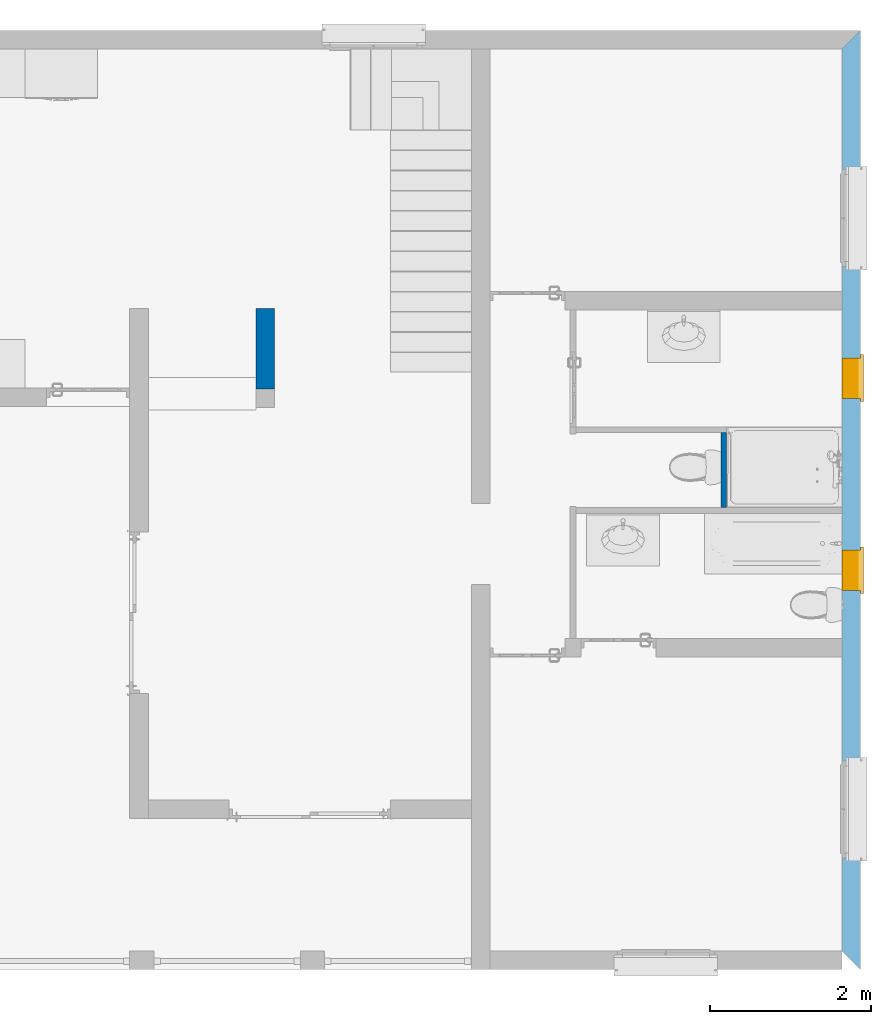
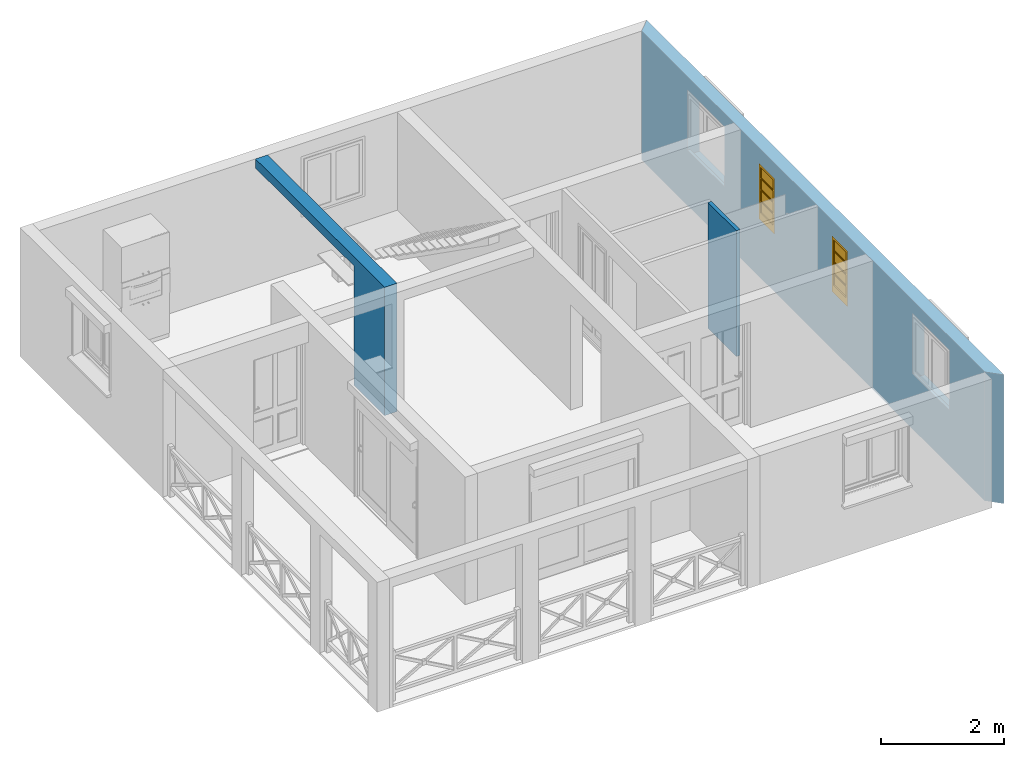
# One storey, part 11 of 17: 2 walls, 2 windows, 5 openings, plus 1 element that does not belong to this part.
"""IFC2X3 building model written with IfcOpenShell, lengths in metres."""

from ifc_helpers import new_model, entity, si_unit, converted_unit, derived_unit, money_unit, direction, frame, origin_with_axes, origin_2d_with_axis, place, context, subcontext, project, spatial, polyline, rectangle, outline, extrude, boolean, clip, bounded_halfspace, faceted_brep, material, layer, layer_set, layer_usage, type_object, element, fill, save


model = new_model("IFC2X3")

# Units and contexts
model_context = context("Model", 3, precision=1e-05, world=origin_with_axes(), true_north=direction((0.0, 1.0)))
body_context = subcontext(model_context, "Body", "Model", "MODEL_VIEW")
ifc_project = project(units=[si_unit("LENGTHUNIT", "METRE"), si_unit("AREAUNIT", "SQUARE_METRE"), si_unit("VOLUMEUNIT", "CUBIC_METRE"), converted_unit("PLANEANGLEUNIT", "DEGREE", entity("IfcPlaneAngleMeasure", 0.0174532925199), si_unit("PLANEANGLEUNIT", "RADIAN"), dimensions=[0, 0, 0, 0, 0, 0, 0]), si_unit("SOLIDANGLEUNIT", "STERADIAN"), money_unit("CHF"), converted_unit("TIMEUNIT", "Year", entity("IfcTimeMeasure", 31556926.0), si_unit("TIMEUNIT", "SECOND"), dimensions=[0, 0, 1, 0, 0, 0, 0]), si_unit("MASSUNIT", "GRAM", prefix="KILO"), si_unit("THERMODYNAMICTEMPERATUREUNIT", "DEGREE_CELSIUS"), si_unit("LUMINOUSINTENSITYUNIT", "LUMEN"), si_unit("ENERGYUNIT", "JOULE", prefix="MEGA"), derived_unit("THERMALCONDUCTANCEUNIT", [(si_unit("POWERUNIT", "WATT"), 1), (si_unit("LENGTHUNIT", "METRE"), -1), (si_unit("THERMODYNAMICTEMPERATUREUNIT", "KELVIN"), -1)]), derived_unit("SPECIFICHEATCAPACITYUNIT", [(si_unit("ENERGYUNIT", "JOULE"), 1), (si_unit("MASSUNIT", "GRAM", prefix="KILO"), -1), (si_unit("THERMODYNAMICTEMPERATUREUNIT", "KELVIN"), -1)]), derived_unit("MASSDENSITYUNIT", [(si_unit("MASSUNIT", "GRAM", prefix="KILO"), 1), (si_unit("VOLUMEUNIT", "CUBIC_METRE"), -1)])], contexts=[model_context])

# Site, building, storey
site_placement = place(None, origin_with_axes())
site = spatial("IfcSite", under=ifc_project, at=site_placement, Name="Site", CompositionType="ELEMENT")
building_placement = place(site_placement, origin_with_axes())
building = spatial("IfcBuilding", under=site, at=building_placement, Name="Bâtiment", CompositionType="ELEMENT")
storey_placement = place(building_placement, frame((0.0, 0.0, 3.0), z_axis=(0.0, 0.0, 1.0), x_axis=(1.0, 0.0, 0.0)))
storey = spatial("IfcBuildingStorey", under=building, at=storey_placement, Name="RDJ", CompositionType="ELEMENT", Elevation=3.0)

# Wall, openings, windows
ifc_material = material(Name="Hachure solide 2628782308")
ifc_layer = layer(ifc_material, 0.23, ventilated="UNKNOWN")
ifc_layer_set = layer_set([ifc_layer], Name="Hachure solide 2628782308 0.23")
ifc_layer_usage = layer_usage(ifc_layer_set, "AXIS2", "POSITIVE", -0.23)
wall_type_1 = type_object("IfcWallType", Name="Hachure solide 2628782308 230", PredefinedType="NOTDEFINED")
wall_1_placement = place(storey_placement, frame((96.5635190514, 18.8103410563, -3.05), z_axis=(0.0, 0.0, 1.0), x_axis=(0.0, -1.0, 0.0)))
wall_1 = element("IfcWallStandardCase", 1, at=wall_1_placement, inside=storey, type_object=wall_type_1, material=ifc_layer_usage, Name="MurExt-008", context=body_context, shape_type="Clipping", body=[
    clip(extrude(outline(polyline([(0.23, -0.23), (11.4, -0.23), (11.63, 0.0), (0.0, 0.0), (0.23, -0.23)])), origin_with_axes(), (0.0, 0.0, 1.0), 2.56), bounded_halfspace(frame((0.0, 1.25521538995, 2.17409682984), z_axis=(0.0, -0.5, -0.866025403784), x_axis=(0.0, 0.866025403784, -0.5)), True, origin_with_axes(), polyline([(-0.280010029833, -0.24), (11.910010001, -0.24), (11.910010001, 0.01), (-0.280010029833, 0.01), (-0.280010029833, -0.24)]))),
])
opening_1_placement = place(wall_1_placement, frame((6.68515208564, 0.0, 1.25), z_axis=(0.0, 0.0, 1.0), x_axis=(1.0, 0.0, 0.0)))
opening_1 = element("IfcOpeningElement", 2, at=opening_1_placement, cuts=wall_1, Name="Fen-033", context=body_context, shape_type="SweptSolid", body=[
    extrude(outline(polyline([(0.25, 0.1), (-0.25, 0.1), (-0.25, -1.0), (0.25, -1.0), (0.25, 0.1)])), frame((0.0, -0.23, 0.0), z_axis=(0.0, -1.0, 0.0), x_axis=(-1.0, 0.0, 0.0)), (0.0, 0.0, -1.0), 0.46),
])
opening_2_placement = place(wall_1_placement, frame((4.30484791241, 0.0, 1.25), z_axis=(0.0, 0.0, 1.0), x_axis=(1.0, 0.0, 0.0)))
opening_2 = element("IfcOpeningElement", 3, at=opening_2_placement, cuts=wall_1, Name="Fen-032", context=body_context, shape_type="SweptSolid", body=[
    extrude(outline(polyline([(0.25, 0.1), (-0.25, 0.1), (-0.25, -1.0), (0.25, -1.0), (0.25, 0.1)])), frame((0.0, -0.23, 0.0), z_axis=(0.0, 1.0, 0.0), x_axis=(1.0, 0.0, 0.0)), (0.0, 0.0, 1.0), 0.46),
])
opening_3_placement = place(wall_1_placement, frame((9.6472909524, 0.0, 1.1), z_axis=(0.0, 0.0, 1.0), x_axis=(1.0, 0.0, 0.0)))
element("IfcOpeningElement", 4, at=opening_3_placement, cuts=wall_1, Name="Fen-012", context=body_context, shape_type="SweptSolid", body=[
    extrude(outline(polyline([(0.6, 0.0), (-0.6, 0.0), (-0.6, -0.9), (0.0, 0.0), (0.6, -0.9), (0.6, 0.0)])), frame((0.0, -0.23, 0.0), z_axis=(0.0, -1.0, 0.0), x_axis=(-1.0, 0.0, 0.0)), (0.0, 0.0, -1.0), 0.46),
    extrude(outline(polyline([(-0.6, -1.2), (0.6, -1.2), (0.6, 0.0), (-0.6, 0.0), (-0.6, -1.2)])), frame((0.0, -0.23, 0.0), z_axis=(0.0, -1.0, 0.0), x_axis=(-1.0, 0.0, 0.0)), (0.0, 0.0, -1.0), 0.46),
    extrude(outline(polyline([(0.6, -0.1), (0.6, 0.001), (-0.6, 0.001), (-0.6, -0.1), (0.6, -0.1)])), frame((0.0, -0.18, 0.0), z_axis=(0.0, 1.0, 0.0), x_axis=(-1.0, 0.0, 0.0)), (0.0, 0.0, 1.0), 0.23),
])
opening_4_placement = place(wall_1_placement, frame((2.32356079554, 0.0, 1.1), z_axis=(0.0, 0.0, 1.0), x_axis=(1.0, 0.0, 0.0)))
element("IfcOpeningElement", 5, at=opening_4_placement, cuts=wall_1, Name="Fen-012", context=body_context, shape_type="SweptSolid", body=[
    extrude(outline(polyline([(0.6, 0.0), (-0.6, 0.0), (-0.6, -0.9), (0.0, 0.0), (0.6, -0.9), (0.6, 0.0)])), frame((0.0, -0.23, 0.0), z_axis=(0.0, -1.0, 0.0), x_axis=(-1.0, 0.0, 0.0)), (0.0, 0.0, -1.0), 0.46),
    extrude(outline(polyline([(-0.6, -1.2), (0.6, -1.2), (0.6, 0.0), (-0.6, 0.0), (-0.6, -1.2)])), frame((0.0, -0.23, 0.0), z_axis=(0.0, -1.0, 0.0), x_axis=(-1.0, 0.0, 0.0)), (0.0, 0.0, -1.0), 0.46),
    extrude(outline(polyline([(0.6, -0.1), (0.6, 0.001), (-0.6, 0.001), (-0.6, -0.1), (0.6, -0.1)])), frame((0.0, -0.18, 0.0), z_axis=(0.0, 1.0, 0.0), x_axis=(-1.0, 0.0, 0.0)), (0.0, 0.0, 1.0), 0.23),
])
window_style = type_object("IfcWindowStyle", Name="Baie_fixe", ConstructionType="NOTDEFINED", OperationType="NOTDEFINED", ParameterTakesPrecedence=False, Sizeable=False)
window_1_placement = place(opening_1_placement, frame((-0.25, 0.0, 0.0), z_axis=(0.0, 0.0, 1.0), x_axis=(1.0, 0.0, 0.0)))
window_1 = element("IfcWindow", 6, at=window_1_placement, inside=storey, type_object=window_style, Name="Fen-033", OverallHeight=1.0, OverallWidth=0.5, context=body_context, shape_type="Brep", body=[
    faceted_brep([(0.5, -0.23, -0.1), (0.45, -0.23, -0.1), (0.45, -0.17, -0.1), (0.5, -0.17, -0.1), (0.5, -0.23, 1.0), (0.0, -0.23, 1.0), (0.0, -0.23, -0.1), (0.05, -0.23, -0.1), (0.05, -0.23, 0.05), (0.05, -0.23, 0.95), (0.45, -0.23, 0.95), (0.45, -0.23, 0.05), (0.45, -0.17, 0.05), (0.45, -0.17, 0.95), (0.05, -0.17, 0.95), (0.05, -0.17, 0.05), (0.05, -0.17, -0.1), (0.0, -0.17, -0.1), (0.0, -0.17, 1.0), (0.5, -0.17, 1.0)], [[[0, 1, 2, 3]], [[0, 4, 5, 6, 7, 8, 9, 10, 11, 1]], [[1, 11, 12, 2]], [[3, 2, 12, 13, 14, 15, 16, 17, 18, 19]], [[4, 0, 3, 19]], [[5, 4, 19, 18]], [[6, 5, 18, 17]], [[7, 6, 17, 16]], [[8, 7, 16, 15]], [[9, 8, 15, 14]], [[10, 9, 14, 13]], [[11, 10, 13, 12]]]),
    faceted_brep([(0.05, -0.23, -0.1), (0.05, -0.23, 0.05), (0.05, -0.17, 0.05), (0.05, -0.17, -0.1), (0.45, -0.23, -0.1), (0.45, -0.23, 0.05), (0.45, -0.17, 0.05), (0.45, -0.17, -0.1)], [[[0, 1, 2, 3]], [[0, 4, 5, 1]], [[1, 5, 6, 2]], [[3, 2, 6, 7]], [[4, 0, 3, 7]], [[5, 4, 7, 6]]]),
    faceted_brep([(0.05, -0.2125, 0.05), (0.05, -0.2125, 0.9499), (0.05, -0.2075, 0.9499), (0.05, -0.2075, 0.05), (0.45, -0.2125, 0.05), (0.45, -0.2125, 0.9499), (0.45, -0.2075, 0.9499), (0.45, -0.2075, 0.05)], [[[0, 1, 2, 3]], [[0, 4, 5, 1]], [[1, 5, 6, 2]], [[3, 2, 6, 7]], [[4, 0, 3, 7]], [[5, 4, 7, 6]]]),
    faceted_brep([(0.05, -0.2125, 0.74), (0.05, -0.2125, 0.72), (0.05, -0.2275, 0.72), (0.05, -0.2275, 0.74), (0.45, -0.2125, 0.74), (0.45, -0.2125, 0.72), (0.45, -0.2275, 0.72), (0.45, -0.2275, 0.74)], [[[0, 1, 2, 3]], [[4, 5, 1, 0]], [[2, 1, 5, 6]], [[3, 2, 6, 7]], [[7, 4, 0, 3]], [[7, 6, 5, 4]]]),
    faceted_brep([(0.05, -0.2275, 0.49), (0.05, -0.2275, 0.51), (0.05, -0.2125, 0.51), (0.05, -0.2125, 0.49), (0.45, -0.2275, 0.49), (0.45, -0.2275, 0.51), (0.45, -0.2125, 0.51), (0.45, -0.2125, 0.49)], [[[0, 1, 2, 3]], [[4, 5, 1, 0]], [[2, 1, 5, 6]], [[3, 2, 6, 7]], [[7, 4, 0, 3]], [[7, 6, 5, 4]]]),
    faceted_brep([(0.05, -0.2125, 0.28), (0.05, -0.2125, 0.26), (0.05, -0.2275, 0.26), (0.05, -0.2275, 0.28), (0.45, -0.2125, 0.28), (0.45, -0.2125, 0.26), (0.45, -0.2275, 0.26), (0.45, -0.2275, 0.28)], [[[0, 1, 2, 3]], [[4, 5, 1, 0]], [[2, 1, 5, 6]], [[3, 2, 6, 7]], [[7, 4, 0, 3]], [[7, 6, 5, 4]]]),
    faceted_brep([(0.05, -0.1925, 0.74), (0.05, -0.1925, 0.72), (0.05, -0.2075, 0.72), (0.05, -0.2075, 0.74), (0.45, -0.1925, 0.74), (0.45, -0.1925, 0.72), (0.45, -0.2075, 0.72), (0.45, -0.2075, 0.74)], [[[0, 1, 2, 3]], [[4, 5, 1, 0]], [[2, 1, 5, 6]], [[3, 2, 6, 7]], [[7, 4, 0, 3]], [[7, 6, 5, 4]]]),
    faceted_brep([(0.05, -0.2075, 0.49), (0.05, -0.2075, 0.51), (0.05, -0.1925, 0.51), (0.05, -0.1925, 0.49), (0.45, -0.2075, 0.49), (0.45, -0.2075, 0.51), (0.45, -0.1925, 0.51), (0.45, -0.1925, 0.49)], [[[0, 1, 2, 3]], [[4, 5, 1, 0]], [[2, 1, 5, 6]], [[3, 2, 6, 7]], [[7, 4, 0, 3]], [[7, 6, 5, 4]]]),
    faceted_brep([(0.05, -0.1925, 0.28), (0.05, -0.1925, 0.26), (0.05, -0.2075, 0.26), (0.05, -0.2075, 0.28), (0.45, -0.1925, 0.28), (0.45, -0.1925, 0.26), (0.45, -0.2075, 0.26), (0.45, -0.2075, 0.28)], [[[0, 1, 2, 3]], [[4, 5, 1, 0]], [[2, 1, 5, 6]], [[3, 2, 6, 7]], [[7, 4, 0, 3]], [[7, 6, 5, 4]]]),
    faceted_brep([(0.0, -0.23, -0.1), (0.0, -0.23, 0.0), (0.0, -0.17, 0.0), (0.0, -0.17, -0.1), (0.5, -0.23, -0.1), (0.5, -0.23, 0.0), (0.5, -0.17, 0.0), (0.5, -0.17, -0.1)], [[[0, 1, 2, 3]], [[0, 4, 5, 1]], [[1, 5, 6, 2]], [[3, 2, 6, 7]], [[4, 0, 3, 7]], [[5, 4, 7, 6]]]),
    faceted_brep([(-0.04, 0.04, -0.1), (-0.04, 0.0, -0.1), (-0.04, 0.0, -0.052380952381), (-0.04, 0.04, -0.06), (0.54, 0.04, -0.1), (0.54, 0.0, -0.1), (0.5, 0.0, -0.1), (0.5, -0.17, -0.1), (0.0, -0.17, -0.1), (0.0, 0.0, -0.1), (0.0, 0.0, -0.052380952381), (0.0, -0.17, -0.02), (0.5, -0.17, -0.02), (0.5, 0.0, -0.052380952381), (0.54, 0.0, -0.052380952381), (0.54, 0.04, -0.06)], [[[0, 1, 2, 3]], [[0, 4, 5, 6, 7, 8, 9, 1]], [[1, 9, 10, 2]], [[3, 2, 10, 11, 12, 13, 14, 15]], [[4, 0, 3, 15]], [[5, 4, 15, 14]], [[6, 5, 14, 13]], [[7, 6, 13, 12]], [[8, 7, 12, 11]], [[9, 8, 11, 10]]]),
])
fill(opening_1, window_1)
window_2_placement = place(opening_2_placement, frame((-0.25, 0.0, 0.0), z_axis=(0.0, 0.0, 1.0), x_axis=(1.0, 0.0, 0.0)))
window_2 = element("IfcWindow", 7, at=window_2_placement, inside=storey, type_object=window_style, Name="Fen-032", OverallHeight=1.0, OverallWidth=0.5, context=body_context, shape_type="Brep", body=[
    faceted_brep([(0.0, -0.23, -0.1), (0.0, -0.17, -0.1), (0.05, -0.17, -0.1), (0.05, -0.23, -0.1), (0.0, -0.23, 1.0), (0.0, -0.17, 1.0), (0.5, -0.17, 1.0), (0.5, -0.17, -0.1), (0.45, -0.17, -0.1), (0.45, -0.17, 0.05), (0.45, -0.17, 0.95), (0.05, -0.17, 0.95), (0.05, -0.17, 0.05), (0.05, -0.23, 0.05), (0.05, -0.23, 0.95), (0.45, -0.23, 0.95), (0.45, -0.23, 0.05), (0.45, -0.23, -0.1), (0.5, -0.23, -0.1), (0.5, -0.23, 1.0)], [[[0, 1, 2, 3]], [[4, 5, 1, 0]], [[1, 5, 6, 7, 8, 9, 10, 11, 12, 2]], [[3, 2, 12, 13]], [[0, 3, 13, 14, 15, 16, 17, 18, 19, 4]], [[19, 6, 5, 4]], [[18, 7, 6, 19]], [[17, 8, 7, 18]], [[16, 9, 8, 17]], [[15, 10, 9, 16]], [[14, 11, 10, 15]], [[13, 12, 11, 14]]]),
    faceted_brep([(0.45, -0.23, -0.1), (0.45, -0.17, -0.1), (0.45, -0.17, 0.05), (0.45, -0.23, 0.05), (0.05, -0.23, -0.1), (0.05, -0.17, -0.1), (0.05, -0.17, 0.05), (0.05, -0.23, 0.05)], [[[0, 1, 2, 3]], [[4, 5, 1, 0]], [[1, 5, 6, 2]], [[3, 2, 6, 7]], [[0, 3, 7, 4]], [[7, 6, 5, 4]]]),
    faceted_brep([(0.45, -0.2125, 0.05), (0.45, -0.2075, 0.05), (0.45, -0.2075, 0.9499), (0.45, -0.2125, 0.9499), (0.05, -0.2125, 0.05), (0.05, -0.2075, 0.05), (0.05, -0.2075, 0.9499), (0.05, -0.2125, 0.9499)], [[[0, 1, 2, 3]], [[4, 5, 1, 0]], [[1, 5, 6, 2]], [[3, 2, 6, 7]], [[0, 3, 7, 4]], [[7, 6, 5, 4]]]),
    faceted_brep([(0.45, -0.2125, 0.74), (0.45, -0.2275, 0.74), (0.45, -0.2275, 0.72), (0.45, -0.2125, 0.72), (0.05, -0.2275, 0.74), (0.05, -0.2125, 0.74), (0.05, -0.2275, 0.72), (0.05, -0.2125, 0.72)], [[[0, 1, 2, 3]], [[4, 1, 0, 5]], [[1, 4, 6, 2]], [[2, 6, 7, 3]], [[5, 0, 3, 7]], [[4, 5, 7, 6]]]),
    faceted_brep([(0.45, -0.2275, 0.49), (0.45, -0.2125, 0.49), (0.45, -0.2125, 0.51), (0.45, -0.2275, 0.51), (0.05, -0.2125, 0.49), (0.05, -0.2275, 0.49), (0.05, -0.2125, 0.51), (0.05, -0.2275, 0.51)], [[[0, 1, 2, 3]], [[4, 1, 0, 5]], [[1, 4, 6, 2]], [[2, 6, 7, 3]], [[5, 0, 3, 7]], [[4, 5, 7, 6]]]),
    faceted_brep([(0.45, -0.2125, 0.28), (0.45, -0.2275, 0.28), (0.45, -0.2275, 0.26), (0.45, -0.2125, 0.26), (0.05, -0.2275, 0.28), (0.05, -0.2125, 0.28), (0.05, -0.2275, 0.26), (0.05, -0.2125, 0.26)], [[[0, 1, 2, 3]], [[4, 1, 0, 5]], [[1, 4, 6, 2]], [[2, 6, 7, 3]], [[5, 0, 3, 7]], [[4, 5, 7, 6]]]),
    faceted_brep([(0.45, -0.1925, 0.74), (0.45, -0.2075, 0.74), (0.45, -0.2075, 0.72), (0.45, -0.1925, 0.72), (0.05, -0.2075, 0.74), (0.05, -0.1925, 0.74), (0.05, -0.2075, 0.72), (0.05, -0.1925, 0.72)], [[[0, 1, 2, 3]], [[4, 1, 0, 5]], [[1, 4, 6, 2]], [[2, 6, 7, 3]], [[5, 0, 3, 7]], [[4, 5, 7, 6]]]),
    faceted_brep([(0.45, -0.2075, 0.49), (0.45, -0.1925, 0.49), (0.45, -0.1925, 0.51), (0.45, -0.2075, 0.51), (0.05, -0.1925, 0.49), (0.05, -0.2075, 0.49), (0.05, -0.1925, 0.51), (0.05, -0.2075, 0.51)], [[[0, 1, 2, 3]], [[4, 1, 0, 5]], [[1, 4, 6, 2]], [[2, 6, 7, 3]], [[5, 0, 3, 7]], [[4, 5, 7, 6]]]),
    faceted_brep([(0.45, -0.1925, 0.28), (0.45, -0.2075, 0.28), (0.45, -0.2075, 0.26), (0.45, -0.1925, 0.26), (0.05, -0.2075, 0.28), (0.05, -0.1925, 0.28), (0.05, -0.2075, 0.26), (0.05, -0.1925, 0.26)], [[[0, 1, 2, 3]], [[4, 1, 0, 5]], [[1, 4, 6, 2]], [[2, 6, 7, 3]], [[5, 0, 3, 7]], [[4, 5, 7, 6]]]),
    faceted_brep([(0.5, -0.23, -0.1), (0.5, -0.17, -0.1), (0.5, -0.17, 0.0), (0.5, -0.23, 0.0), (0.0, -0.23, -0.1), (0.0, -0.17, -0.1), (0.0, -0.17, 0.0), (0.0, -0.23, 0.0)], [[[0, 1, 2, 3]], [[4, 5, 1, 0]], [[1, 5, 6, 2]], [[3, 2, 6, 7]], [[0, 3, 7, 4]], [[7, 6, 5, 4]]]),
    faceted_brep([(0.54, 0.04, -0.1), (0.54, 0.04, -0.06), (0.54, 0.0, -0.052380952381), (0.54, 0.0, -0.1), (-0.04, 0.04, -0.1), (-0.04, 0.04, -0.06), (-0.04, 0.0, -0.052380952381), (0.0, 0.0, -0.052380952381), (0.0, -0.17, -0.02), (0.5, -0.17, -0.02), (0.5, 0.0, -0.052380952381), (0.5, 0.0, -0.1), (0.5, -0.17, -0.1), (0.0, -0.17, -0.1), (0.0, 0.0, -0.1), (-0.04, 0.0, -0.1)], [[[0, 1, 2, 3]], [[4, 5, 1, 0]], [[1, 5, 6, 7, 8, 9, 10, 2]], [[3, 2, 10, 11]], [[0, 3, 11, 12, 13, 14, 15, 4]], [[15, 6, 5, 4]], [[14, 7, 6, 15]], [[13, 8, 7, 14]], [[12, 9, 8, 13]], [[11, 10, 9, 12]]]),
])
fill(opening_2, window_2)

# Wall, opening
wall_2_placement = place(storey_placement, frame((89.3055190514, 14.1414124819, -3.04), z_axis=(0.0, 0.0, 1.0), x_axis=(0.0, 1.0, 0.0)))
wall_2 = element("IfcWall", 8, at=wall_2_placement, inside=storey, type_object=wall_type_1, material=ifc_material, Name="MurExt-004", context=body_context, shape_type="CSG", body=[
    boolean("DIFFERENCE", boolean("DIFFERENCE", extrude(outline(polyline([(0.0, 0.0), (4.66892857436, 0.0), (4.66892857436, 0.23), (0.0, 0.23), (0.0, 0.0)])), origin_with_axes(), (0.0, 0.0, 1.0), 2.55), faceted_brep([(0.23, 0.0, 0.0), (0.23, 0.0, 2.55), (0.0, 0.0, 2.55), (0.0, 0.0, 0.0), (0.23, 0.23, 2.55), (0.23, 0.23, 0.0), (0.0, 0.23, 2.55), (0.0, 0.23, 0.0)], [[[0, 1, 2, 3]], [[4, 1, 0, 5]], [[1, 4, 6, 2]], [[6, 7, 3, 2]], [[5, 0, 3, 7]], [[4, 5, 7, 6]]])), faceted_brep([(4.43892857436, 0.23, 2.55), (4.43892857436, 0.0, 2.55), (4.66892857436, 0.0, 2.55), (4.66892857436, 0.23, 2.55), (4.43892855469, 0.0, 0.04), (4.43892855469, 0.23, 0.04), (1.22719010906, -9.53674827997e-09, 0.04), (1.22719010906, -9.53674827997e-09, 0.0), (4.66892857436, 0.0, 0.0), (4.66892857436, 0.23, 0.0), (1.22719010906, 0.229999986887, 0.0), (1.22719010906, 0.229999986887, 0.04)], [[[0, 1, 2, 3]], [[4, 1, 0, 5]], [[6, 7, 8, 2, 1, 4]], [[2, 8, 9, 3]], [[5, 0, 3, 9, 10, 11]], [[6, 4, 5, 11]], [[7, 6, 11, 10]], [[7, 10, 9, 8]]])),
])
opening_5_placement = place(wall_2_placement, frame((2.83305936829, 0.0, 0.0), z_axis=(0.0, 0.0, 1.0), x_axis=(1.0, 0.0, 0.0)))
element("IfcOpeningElement", 9, at=opening_5_placement, cuts=wall_2, Name="Por-057", context=body_context, shape_type="SweptSolid", body=[
    extrude(rectangle(XDim=3.21173841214, YDim=2.37, at=origin_2d_with_axis()), frame((0.0, -0.23, 1.185), z_axis=(0.0, -1.0, 0.0), x_axis=(-1.0, 0.0, 0.0)), (0.0, 0.0, -1.0), 0.69),
])

# Wall
wall_type_2 = type_object("IfcWallType", Name="Hachure solide 2628782308 70", PredefinedType="NOTDEFINED")
wall_3_placement = place(storey_placement, frame((94.9059225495, 13.9003410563, -2.99), z_axis=(0.0, 0.0, 1.0), x_axis=(0.0, -1.0, 0.0)))
element("IfcWall", 10, at=wall_3_placement, inside=storey, type_object=wall_type_2, material=ifc_material, Name="MurExt-008", context=body_context, shape_type="CSG", body=[
    boolean("DIFFERENCE", extrude(outline(polyline([(0.0, -0.07), (1.07, -0.07), (1.07, 0.0), (0.0, 0.0), (0.0, -0.07)])), origin_with_axes(), (0.0, 0.0, 1.0), 2.55), faceted_brep([(1.0, 0.0, 0.0), (1.0, 0.0, 2.5), (0.07, 0.0, 2.5), (0.07, 0.0, 0.0), (0.0, 0.0, 0.0), (0.0, 0.0, 2.55), (1.07, 0.0, 2.55), (1.07, 0.0, 0.0), (1.0, -0.07, 0.0), (1.0, -0.07, 2.5), (0.07, -0.07, 2.5), (0.07, -0.07, 0.0), (0.0, -0.07, 0.0), (0.0, -0.07, 2.55), (1.07, -0.07, 2.55), (1.07, -0.07, 0.0)], [[[0, 1, 2, 3, 4, 5, 6, 7]], [[1, 0, 8, 9]], [[2, 1, 9, 10]], [[3, 2, 10, 11]], [[3, 11, 12, 4]], [[5, 4, 12, 13]], [[5, 13, 14, 6]], [[14, 15, 7, 6]], [[8, 0, 7, 15]], [[9, 8, 15, 14, 13, 12, 11, 10]]])),
])

save(model, "model.ifc")
